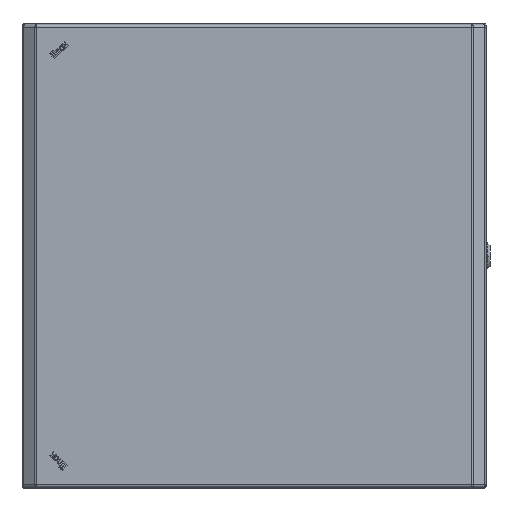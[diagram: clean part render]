
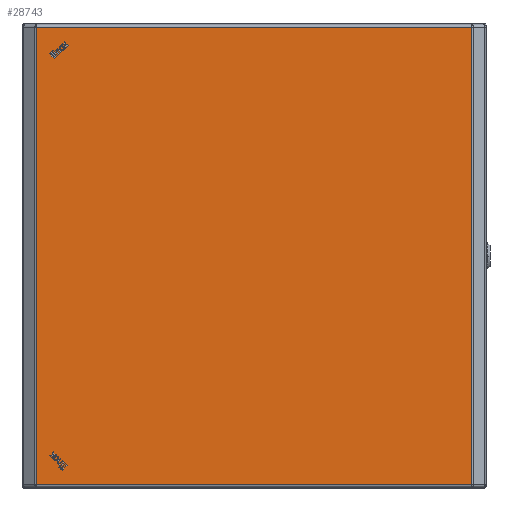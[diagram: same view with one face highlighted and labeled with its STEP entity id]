
A CAD part, top view. The second image highlights one B-rep face of the part: STEP entity #28743.
In plain terms, the highlighted planar face has unit normal (0, 0, 1).
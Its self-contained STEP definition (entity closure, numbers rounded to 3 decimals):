
#826 = CARTESIAN_POINT ( 'NONE',  ( 234.294, 246.35, 26.5 ) ) ;
#1606 = VECTOR ( 'NONE', #30231, 1000. ) ;
#3904 = EDGE_CURVE ( 'NONE', #18704, #9031, #16804, .T. ) ;
#3972 = LINE ( 'NONE', #20160, #26171 ) ;
#4822 = VERTEX_POINT ( 'NONE', #826 ) ;
#5540 = ORIENTED_EDGE ( 'NONE', *, *, #5585, .T. ) ;
#5585 = EDGE_CURVE ( 'NONE', #26355, #4822, #20564, .T. ) ;
#6676 = CARTESIAN_POINT ( 'NONE',  ( 249.35, -249.35, 26.5 ) ) ;
#9010 = CARTESIAN_POINT ( 'NONE',  ( 234.294, -249.35, 26.5 ) ) ;
#9031 = VERTEX_POINT ( 'NONE', #24358 ) ;
#9737 = PLANE ( 'NONE',  #23502 ) ;
#10374 = VECTOR ( 'NONE', #19121, 1000. ) ;
#12622 = VECTOR ( 'NONE', #26271, 1000. ) ;
#12924 = EDGE_CURVE ( 'NONE', #4822, #18704, #3972, .T. ) ;
#13551 = ORIENTED_EDGE ( 'NONE', *, *, #25704, .T. ) ;
#13951 = LINE ( 'NONE', #14265, #12622 ) ;
#14265 = CARTESIAN_POINT ( 'NONE',  ( 235.25, -246.35, 26.5 ) ) ;
#16804 = LINE ( 'NONE', #17415, #10374 ) ;
#17415 = CARTESIAN_POINT ( 'NONE',  ( -234.294, -249.35, 26.5 ) ) ;
#18697 = DIRECTION ( 'NONE',  ( 1., 0., 0. ) ) ;
#18704 = VERTEX_POINT ( 'NONE', #29128 ) ;
#18771 = EDGE_LOOP ( 'NONE', ( #25509, #13551, #5540, #30247 ) ) ;
#19121 = DIRECTION ( 'NONE',  ( 0., -1., 0. ) ) ;
#20160 = CARTESIAN_POINT ( 'NONE',  ( -235.25, 246.35, 26.5 ) ) ;
#20564 = LINE ( 'NONE', #9010, #1606 ) ;
#20860 = DIRECTION ( 'NONE',  ( 0., 0., 1. ) ) ;
#23502 = AXIS2_PLACEMENT_3D ( 'NONE', #6676, #20860, #18697 ) ;
#23604 = CARTESIAN_POINT ( 'NONE',  ( 234.294, -246.35, 26.5 ) ) ;
#24358 = CARTESIAN_POINT ( 'NONE',  ( -234.294, -246.35, 26.5 ) ) ;
#25509 = ORIENTED_EDGE ( 'NONE', *, *, #3904, .T. ) ;
#25704 = EDGE_CURVE ( 'NONE', #9031, #26355, #13951, .T. ) ;
#26171 = VECTOR ( 'NONE', #29519, 1000. ) ;
#26271 = DIRECTION ( 'NONE',  ( 1., 0., 0. ) ) ;
#26355 = VERTEX_POINT ( 'NONE', #23604 ) ;
#28743 = ADVANCED_FACE ( 'NONE', ( #30362 ), #9737, .T. ) ;
#29128 = CARTESIAN_POINT ( 'NONE',  ( -234.294, 246.35, 26.5 ) ) ;
#29519 = DIRECTION ( 'NONE',  ( -1., 0., 0. ) ) ;
#30231 = DIRECTION ( 'NONE',  ( 0., 1., 0. ) ) ;
#30247 = ORIENTED_EDGE ( 'NONE', *, *, #12924, .T. ) ;
#30362 = FACE_OUTER_BOUND ( 'NONE', #18771, .T. ) ;
